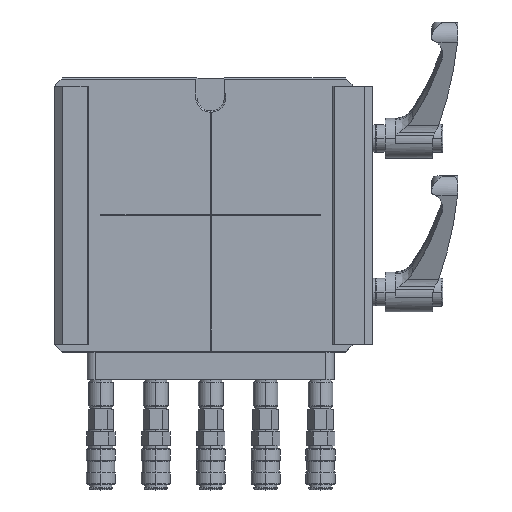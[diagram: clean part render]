
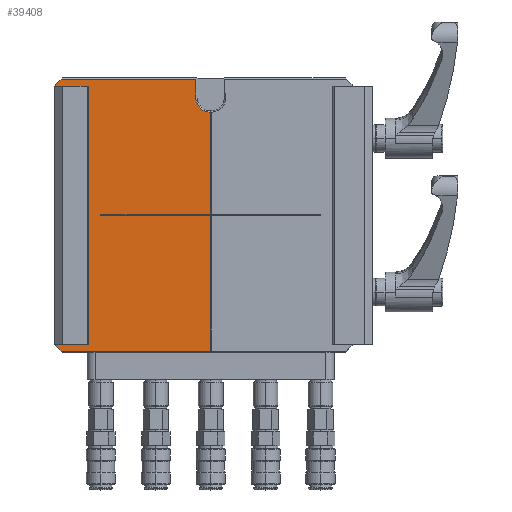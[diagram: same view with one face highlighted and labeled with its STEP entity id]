
A CAD part, top view. The second image highlights one B-rep face of the part: STEP entity #39408.
In plain terms, the highlighted planar face has unit normal (0, 0, 1).
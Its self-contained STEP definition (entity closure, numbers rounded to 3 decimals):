
#142 = CARTESIAN_POINT ( 'NONE',  ( -0.15, 0.15, 12. ) ) ;
#464 = VERTEX_POINT ( 'NONE', #52940 ) ;
#1224 = VECTOR ( 'NONE', #43324, 1000. ) ;
#1346 = VERTEX_POINT ( 'NONE', #2462 ) ;
#1433 = LINE ( 'NONE', #20363, #36386 ) ;
#1809 = ORIENTED_EDGE ( 'NONE', *, *, #3559, .F. ) ;
#2407 = LINE ( 'NONE', #29999, #22210 ) ;
#2462 = CARTESIAN_POINT ( 'NONE',  ( -54.5, 49.5, 12. ) ) ;
#3136 = CARTESIAN_POINT ( 'NONE',  ( -40., -50., 12. ) ) ;
#3559 = EDGE_CURVE ( 'NONE', #53263, #37779, #2407, .T. ) ;
#3580 = CARTESIAN_POINT ( 'NONE',  ( -0.15, 37.502, 12. ) ) ;
#3781 = CARTESIAN_POINT ( 'NONE',  ( -50., -47., 12. ) ) ;
#4408 = EDGE_LOOP ( 'NONE', ( #12598, #23642, #31139, #23916, #48062, #1809, #18431, #20582, #9344, #7468, #35121, #31955, #13620, #36833 ) ) ;
#4449 = FACE_OUTER_BOUND ( 'NONE', #4408, .T. ) ;
#4713 = DIRECTION ( 'NONE',  ( 0.707, -0.707, 0. ) ) ;
#6278 = VECTOR ( 'NONE', #37770, 1000. ) ;
#6977 = CARTESIAN_POINT ( 'NONE',  ( -0.15, -0.15, 12. ) ) ;
#7468 = ORIENTED_EDGE ( 'NONE', *, *, #7658, .F. ) ;
#7658 = EDGE_CURVE ( 'NONE', #36717, #49216, #40692, .T. ) ;
#8277 = CARTESIAN_POINT ( 'NONE',  ( 52., -49.5, 12. ) ) ;
#8438 = VERTEX_POINT ( 'NONE', #142 ) ;
#8752 = CARTESIAN_POINT ( 'NONE',  ( -54., -50., 12. ) ) ;
#9166 = DIRECTION ( 'NONE',  ( 0., 0., -1. ) ) ;
#9344 = ORIENTED_EDGE ( 'NONE', *, *, #40696, .F. ) ;
#10781 = DIRECTION ( 'NONE',  ( -0.707, -0.707, 0. ) ) ;
#11403 = DIRECTION ( 'NONE',  ( 0., -1., 0. ) ) ;
#11640 = VECTOR ( 'NONE', #50121, 1000. ) ;
#11759 = CARTESIAN_POINT ( 'NONE',  ( -0.15, -50., 12. ) ) ;
#11864 = CARTESIAN_POINT ( 'NONE',  ( -5.5, 43., 12. ) ) ;
#12370 = LINE ( 'NONE', #11759, #53998 ) ;
#12460 = VERTEX_POINT ( 'NONE', #11864 ) ;
#12545 = EDGE_CURVE ( 'NONE', #37779, #38003, #19891, .T. ) ;
#12598 = ORIENTED_EDGE ( 'NONE', *, *, #38684, .F. ) ;
#13620 = ORIENTED_EDGE ( 'NONE', *, *, #47091, .F. ) ;
#15135 = CARTESIAN_POINT ( 'NONE',  ( -0.15, -49.5, 12. ) ) ;
#15431 = CARTESIAN_POINT ( 'NONE',  ( -40., 0.15, 12. ) ) ;
#16061 = VECTOR ( 'NONE', #46823, 1000. ) ;
#17041 = VECTOR ( 'NONE', #25704, 1000. ) ;
#17504 = LINE ( 'NONE', #8277, #6278 ) ;
#17697 = EDGE_CURVE ( 'NONE', #50588, #464, #26564, .T. ) ;
#18431 = ORIENTED_EDGE ( 'NONE', *, *, #41779, .F. ) ;
#19122 = LINE ( 'NONE', #39845, #30434 ) ;
#19891 = LINE ( 'NONE', #52707, #29862 ) ;
#20267 = DIRECTION ( 'NONE',  ( 0., -1., 0. ) ) ;
#20363 = CARTESIAN_POINT ( 'NONE',  ( 52., 49.5, 12. ) ) ;
#20582 = ORIENTED_EDGE ( 'NONE', *, *, #44373, .T. ) ;
#21076 = DIRECTION ( 'NONE',  ( 0., 0., 1. ) ) ;
#22210 = VECTOR ( 'NONE', #29150, 1000. ) ;
#22527 = CARTESIAN_POINT ( 'NONE',  ( -5.5, -50., 12. ) ) ;
#22596 = CARTESIAN_POINT ( 'NONE',  ( -50., 47., 12. ) ) ;
#22642 = CARTESIAN_POINT ( 'NONE',  ( -5.5, 49.5, 12. ) ) ;
#23379 = CARTESIAN_POINT ( 'NONE',  ( -54.5, -49.5, 12. ) ) ;
#23642 = ORIENTED_EDGE ( 'NONE', *, *, #38357, .F. ) ;
#23916 = ORIENTED_EDGE ( 'NONE', *, *, #44127, .T. ) ;
#25121 = VECTOR ( 'NONE', #10781, 1000. ) ;
#25414 = CARTESIAN_POINT ( 'NONE',  ( -0.15, -50., 12. ) ) ;
#25704 = DIRECTION ( 'NONE',  ( 0., -1., 0. ) ) ;
#26564 = LINE ( 'NONE', #3136, #37738 ) ;
#28095 = CARTESIAN_POINT ( 'NONE',  ( -57., 47., 12. ) ) ;
#29150 = DIRECTION ( 'NONE',  ( 0., 1., 0. ) ) ;
#29862 = VECTOR ( 'NONE', #36511, 1000. ) ;
#29999 = CARTESIAN_POINT ( 'NONE',  ( -50., -50., 12. ) ) ;
#30253 = PLANE ( 'NONE',  #49502 ) ;
#30434 = VECTOR ( 'NONE', #47868, 1000. ) ;
#31139 = ORIENTED_EDGE ( 'NONE', *, *, #37490, .F. ) ;
#31955 = ORIENTED_EDGE ( 'NONE', *, *, #17697, .F. ) ;
#33403 = EDGE_CURVE ( 'NONE', #464, #36717, #19122, .T. ) ;
#33539 = LINE ( 'NONE', #22527, #1224 ) ;
#33641 = VERTEX_POINT ( 'NONE', #3580 ) ;
#34151 = LINE ( 'NONE', #46001, #11640 ) ;
#34494 = CARTESIAN_POINT ( 'NONE',  ( 52., -50., 12. ) ) ;
#35121 = ORIENTED_EDGE ( 'NONE', *, *, #33403, .F. ) ;
#36386 = VECTOR ( 'NONE', #45357, 1000. ) ;
#36511 = DIRECTION ( 'NONE',  ( -1., 0., 0. ) ) ;
#36717 = VERTEX_POINT ( 'NONE', #6977 ) ;
#36833 = ORIENTED_EDGE ( 'NONE', *, *, #39201, .F. ) ;
#36951 = VECTOR ( 'NONE', #4713, 1000. ) ;
#37490 = EDGE_CURVE ( 'NONE', #1346, #41931, #1433, .T. ) ;
#37738 = VECTOR ( 'NONE', #20267, 1000. ) ;
#37770 = DIRECTION ( 'NONE',  ( -1., 0., 0. ) ) ;
#37779 = VERTEX_POINT ( 'NONE', #22596 ) ;
#38003 = VERTEX_POINT ( 'NONE', #28095 ) ;
#38357 = EDGE_CURVE ( 'NONE', #41931, #12460, #33539, .T. ) ;
#38642 = DIRECTION ( 'NONE',  ( -1., 0., 0. ) ) ;
#38684 = EDGE_CURVE ( 'NONE', #12460, #33641, #50816, .T. ) ;
#39201 = EDGE_CURVE ( 'NONE', #33641, #8438, #12370, .T. ) ;
#39408 = ADVANCED_FACE ( 'NONE', ( #4449 ), #30253, .F. ) ;
#39636 = VERTEX_POINT ( 'NONE', #23379 ) ;
#39763 = LINE ( 'NONE', #42723, #16061 ) ;
#39845 = CARTESIAN_POINT ( 'NONE',  ( 52., -0.15, 12. ) ) ;
#40692 = LINE ( 'NONE', #25414, #17041 ) ;
#40696 = EDGE_CURVE ( 'NONE', #49216, #39636, #17504, .T. ) ;
#41613 = AXIS2_PLACEMENT_3D ( 'NONE', #46021, #21076, #50153 ) ;
#41779 = EDGE_CURVE ( 'NONE', #45861, #53263, #39763, .T. ) ;
#41931 = VERTEX_POINT ( 'NONE', #22642 ) ;
#42723 = CARTESIAN_POINT ( 'NONE',  ( 52., -47., 12. ) ) ;
#43324 = DIRECTION ( 'NONE',  ( 0., -1., 0. ) ) ;
#44127 = EDGE_CURVE ( 'NONE', #1346, #38003, #47182, .T. ) ;
#44373 = EDGE_CURVE ( 'NONE', #45861, #39636, #47803, .T. ) ;
#45357 = DIRECTION ( 'NONE',  ( 1., 0., 0. ) ) ;
#45861 = VERTEX_POINT ( 'NONE', #52999 ) ;
#46001 = CARTESIAN_POINT ( 'NONE',  ( 52., 0.15, 12. ) ) ;
#46021 = CARTESIAN_POINT ( 'NONE',  ( 0., 43., 12. ) ) ;
#46823 = DIRECTION ( 'NONE',  ( 1., 0., 0. ) ) ;
#47091 = EDGE_CURVE ( 'NONE', #8438, #50588, #34151, .T. ) ;
#47182 = LINE ( 'NONE', #48232, #25121 ) ;
#47803 = LINE ( 'NONE', #8752, #36951 ) ;
#47868 = DIRECTION ( 'NONE',  ( 1., 0., 0. ) ) ;
#48062 = ORIENTED_EDGE ( 'NONE', *, *, #12545, .F. ) ;
#48232 = CARTESIAN_POINT ( 'NONE',  ( -57., 47., 12. ) ) ;
#49216 = VERTEX_POINT ( 'NONE', #15135 ) ;
#49502 = AXIS2_PLACEMENT_3D ( 'NONE', #34494, #9166, #38642 ) ;
#50121 = DIRECTION ( 'NONE',  ( -1., 0., 0. ) ) ;
#50153 = DIRECTION ( 'NONE',  ( 0., -1., 0. ) ) ;
#50588 = VERTEX_POINT ( 'NONE', #15431 ) ;
#50816 = CIRCLE ( 'NONE', #41613, 5.5 ) ;
#52707 = CARTESIAN_POINT ( 'NONE',  ( 52., 47., 12. ) ) ;
#52940 = CARTESIAN_POINT ( 'NONE',  ( -40., -0.15, 12. ) ) ;
#52999 = CARTESIAN_POINT ( 'NONE',  ( -57., -47., 12. ) ) ;
#53263 = VERTEX_POINT ( 'NONE', #3781 ) ;
#53998 = VECTOR ( 'NONE', #11403, 1000. ) ;
